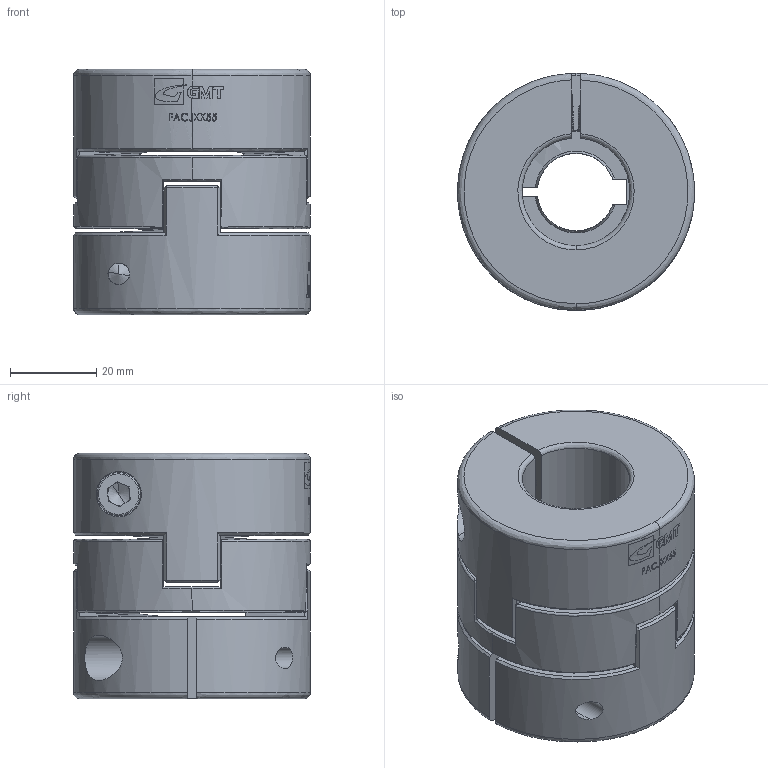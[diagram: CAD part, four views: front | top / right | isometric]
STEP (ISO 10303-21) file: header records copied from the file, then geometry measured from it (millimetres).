
FILE_DESCRIPTION (( 'STEP AP203' ), '1' );
FILE_NAME ('FACJLK55.STEP', '2008-04-04T08:40:24', ( '陳志豪' ), ( '高明鐵企業股份有限公司' ), 'SwSTEP 2.0', 'SolidWorks 2007', '' );
FILE_SCHEMA (( 'CONFIG_CONTROL_DESIGN' ));
Length unit declared in the file: millimetre
Products named in the file (1): FACJLK55
Bounding box: 55 x 55 x 57 mm (x, y, z)
Surface area: 27759.8 mm2 (no closed solid volume)
Topology: 0 solids, 7 shells, 282 faces, 949 edges, 675 vertices
Faces by surface type: plane 128, bspline 65, cylinder 57, cone 32
Entity records: 15371 total; most frequent: CARTESIAN_POINT 8410, ORIENTED_EDGE 1781, EDGE_CURVE 934, DIRECTION 843, VERTEX_POINT 667, B_SPLINE_CURVE_WITH_KNOTS 594, EDGE_LOOP 316, AXIS2_PLACEMENT_3D 295
